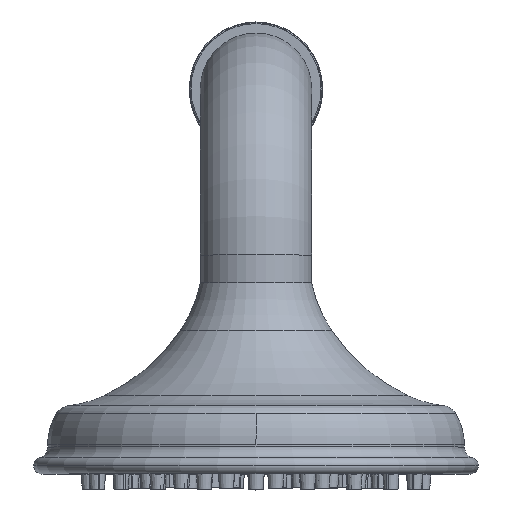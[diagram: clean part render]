
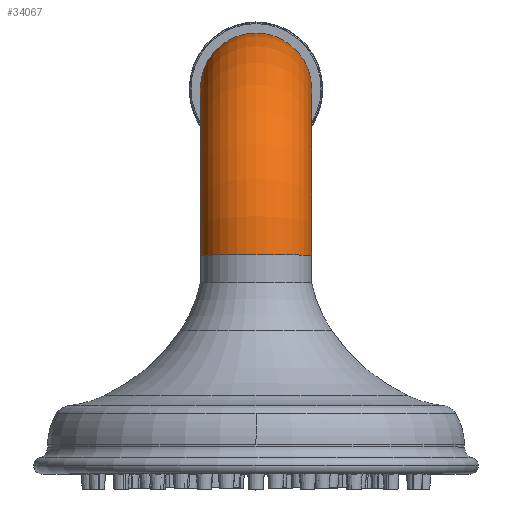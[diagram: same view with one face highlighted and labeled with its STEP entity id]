
A CAD part, top view. The second image highlights one B-rep face of the part: STEP entity #34067.
In plain terms, the highlighted toroidal (fillet/blend) face has major radius 30 mm and minor radius 10 mm.
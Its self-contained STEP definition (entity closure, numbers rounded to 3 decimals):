
#3726=CARTESIAN_POINT('',(0.,39.4,
0.));
#3727=DIRECTION('',(0.,-1.,0.));
#3728=DIRECTION('',(1.,0.,0.));
#3729=AXIS2_PLACEMENT_3D('',#3726,#3727,#3728);
#3734=CARTESIAN_POINT('',(-10.,39.4,
-30.));
#3735=DIRECTION('',(-1.,0.,0.));
#3736=DIRECTION('',(0.,0.,1.));
#3737=AXIS2_PLACEMENT_3D('',#3734,#3735,#3736);
#3742=CARTESIAN_POINT('',(0.,69.4,
-30.));
#3743=DIRECTION('',(0.,0.,-1.));
#3744=DIRECTION('',(-1.,0.,0.));
#3745=AXIS2_PLACEMENT_3D('',#3742,#3743,#3744);
#3750=CARTESIAN_POINT('',(10.,39.4,-30.));
#3751=DIRECTION('',(1.,0.,0.));
#3752=DIRECTION('',(0.,1.,0.));
#3753=AXIS2_PLACEMENT_3D('',#3750,#3751,#3752);
#32953=CARTESIAN_POINT('',(10.,39.4,
0.));
#32954=VERTEX_POINT('',#32953);
#32955=CARTESIAN_POINT('',(-10.,39.4,0.));
#32956=VERTEX_POINT('',#32955);
#32957=CARTESIAN_POINT('',(-10.,69.4,
-30.));
#32958=CARTESIAN_POINT('',(10.,69.4,
-30.));
#32959=VERTEX_POINT('',#32957);
#32960=VERTEX_POINT('',#32958);
#34053=CARTESIAN_POINT('',(0.,39.4,
-30.));
#34054=DIRECTION('',(1.,0.,0.));
#34055=DIRECTION('',(0.,0.,1.));
#34056=AXIS2_PLACEMENT_3D('',#34053,#34054,#34055);
#34057=TOROIDAL_SURFACE('',#34056,30.,10.);
#34058=ORIENTED_EDGE('',*,*,#34035,.T.);
#34060=ORIENTED_EDGE('',*,*,#34059,.T.);
#34062=ORIENTED_EDGE('',*,*,#34061,.T.);
#34064=ORIENTED_EDGE('',*,*,#34063,.T.);
#34065=EDGE_LOOP('',(#34058,#34060,#34062,#34064));
#34066=FACE_OUTER_BOUND('',#34065,.F.);
#3730=CIRCLE('',#3729,10.);
#3738=CIRCLE('',#3737,30.);
#3746=CIRCLE('',#3745,10.);
#3754=CIRCLE('',#3753,30.);
#34035=EDGE_CURVE('',#32954,#32956,#3730,.T.);
#34059=EDGE_CURVE('',#32956,#32959,#3738,.T.);
#34061=EDGE_CURVE('',#32959,#32960,#3746,.T.);
#34063=EDGE_CURVE('',#32960,#32954,#3754,.T.);
#34067=ADVANCED_FACE('',(#34066),#34057,.T.);
